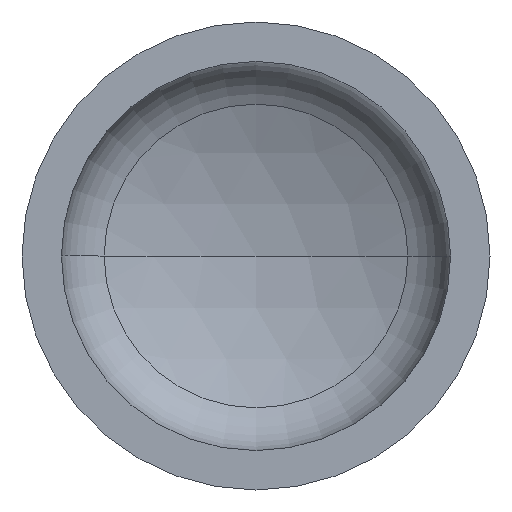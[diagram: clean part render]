
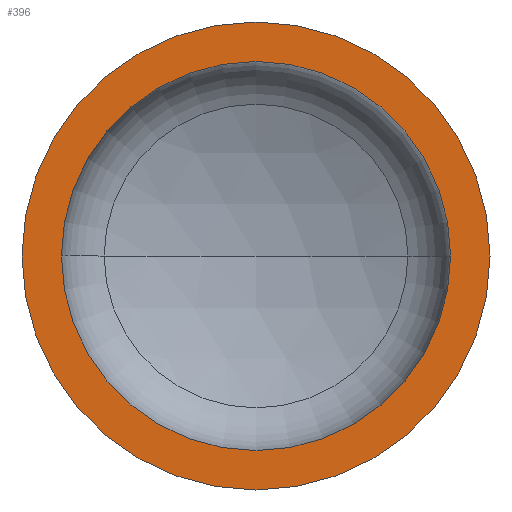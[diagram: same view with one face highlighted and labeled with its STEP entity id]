
A CAD part, front view. The second image highlights one B-rep face of the part: STEP entity #396.
In plain terms, the highlighted planar face has unit normal (0, -1, 0).
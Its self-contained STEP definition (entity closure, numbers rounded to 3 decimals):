
#6 = EDGE_LOOP ( 'NONE', ( #250, #56 ) ) ;
#7 = DIRECTION ( 'NONE',  ( -1., 0., 0. ) ) ;
#10 = VERTEX_POINT ( 'NONE', #259 ) ;
#20 = AXIS2_PLACEMENT_3D ( 'NONE', #180, #393, #324 ) ;
#40 = VERTEX_POINT ( 'NONE', #247 ) ;
#49 = VERTEX_POINT ( 'NONE', #246 ) ;
#56 = ORIENTED_EDGE ( 'NONE', *, *, #81, .T. ) ;
#65 = EDGE_LOOP ( 'NONE', ( #77, #127 ) ) ;
#68 = AXIS2_PLACEMENT_3D ( 'NONE', #309, #201, #215 ) ;
#74 = AXIS2_PLACEMENT_3D ( 'NONE', #317, #314, #313 ) ;
#77 = ORIENTED_EDGE ( 'NONE', *, *, #84, .F. ) ;
#81 = EDGE_CURVE ( 'NONE', #40, #10, #241, .T. ) ;
#84 = EDGE_CURVE ( 'NONE', #118, #49, #366, .T. ) ;
#118 = VERTEX_POINT ( 'NONE', #220 ) ;
#127 = ORIENTED_EDGE ( 'NONE', *, *, #403, .F. ) ;
#130 = CARTESIAN_POINT ( 'NONE',  ( -700., 0., 0. ) ) ;
#156 = CARTESIAN_POINT ( 'NONE',  ( 0., 0., 0. ) ) ;
#165 = DIRECTION ( 'NONE',  ( 0., -1., 0. ) ) ;
#166 = FACE_BOUND ( 'NONE', #65, .T. ) ;
#180 = CARTESIAN_POINT ( 'NONE',  ( 0., 0., 0. ) ) ;
#201 = DIRECTION ( 'NONE',  ( 0., -1., 0. ) ) ;
#215 = DIRECTION ( 'NONE',  ( 1., 0., 0. ) ) ;
#220 = CARTESIAN_POINT ( 'NONE',  ( 582., 0., 0. ) ) ;
#232 = PLANE ( 'NONE',  #402 ) ;
#241 = CIRCLE ( 'NONE', #74, 700. ) ;
#244 = FACE_OUTER_BOUND ( 'NONE', #6, .T. ) ;
#246 = CARTESIAN_POINT ( 'NONE',  ( -582., 0., 0. ) ) ;
#247 = CARTESIAN_POINT ( 'NONE',  ( -700., 0., 0. ) ) ;
#250 = ORIENTED_EDGE ( 'NONE', *, *, #346, .T. ) ;
#252 = CIRCLE ( 'NONE', #20, 700. ) ;
#255 = DIRECTION ( 'NONE',  ( 0., 1., 0. ) ) ;
#259 = CARTESIAN_POINT ( 'NONE',  ( 700., 0., 0. ) ) ;
#309 = CARTESIAN_POINT ( 'NONE',  ( 0., 0., 0. ) ) ;
#313 = DIRECTION ( 'NONE',  ( 1., 0., 0. ) ) ;
#314 = DIRECTION ( 'NONE',  ( 0., -1., 0. ) ) ;
#317 = CARTESIAN_POINT ( 'NONE',  ( 0., 0., 0. ) ) ;
#324 = DIRECTION ( 'NONE',  ( 1., 0., 0. ) ) ;
#328 = DIRECTION ( 'NONE',  ( 1., 0., 0. ) ) ;
#346 = EDGE_CURVE ( 'NONE', #10, #40, #252, .T. ) ;
#366 = CIRCLE ( 'NONE', #68, 582. ) ;
#389 = AXIS2_PLACEMENT_3D ( 'NONE', #156, #165, #328 ) ;
#393 = DIRECTION ( 'NONE',  ( 0., -1., 0. ) ) ;
#396 = ADVANCED_FACE ( 'NONE', ( #166, #244 ), #232, .F. ) ;
#402 = AXIS2_PLACEMENT_3D ( 'NONE', #130, #255, #7 ) ;
#403 = EDGE_CURVE ( 'NONE', #49, #118, #407, .T. ) ;
#407 = CIRCLE ( 'NONE', #389, 582. ) ;
